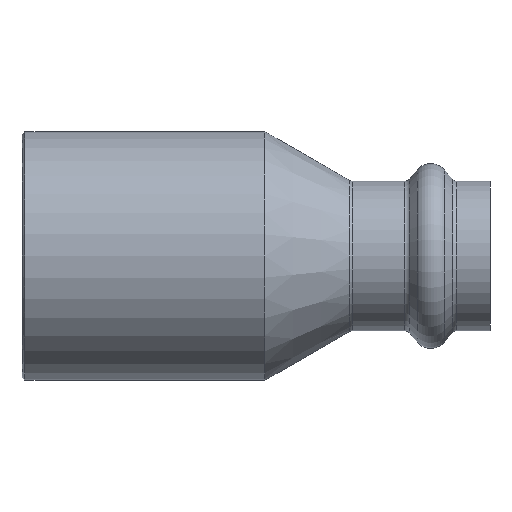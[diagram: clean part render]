
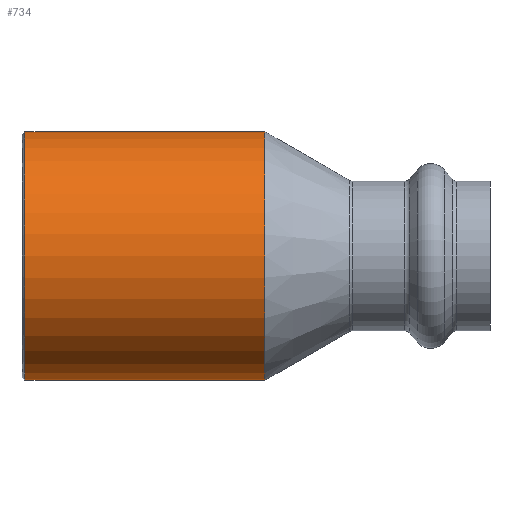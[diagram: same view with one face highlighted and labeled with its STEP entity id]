
A CAD part, front view. The second image highlights one B-rep face of the part: STEP entity #734.
In plain terms, the highlighted cylindrical face has radius 21 mm (diameter 42 mm), a partial arc.
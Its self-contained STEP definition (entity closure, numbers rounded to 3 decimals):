
#62 = VERTEX_POINT ( 'NONE', #63 ) ;
#63 = CARTESIAN_POINT ( 'NONE',  ( 41., 0., 21. ) ) ;
#72 = EDGE_CURVE ( 'NONE', #178, #62, #975, .T. ) ;
#135 = CYLINDRICAL_SURFACE ( 'NONE', #721, 21. ) ;
#139 = VERTEX_POINT ( 'NONE', #545 ) ;
#178 = VERTEX_POINT ( 'NONE', #452 ) ;
#246 = AXIS2_PLACEMENT_3D ( 'NONE', #298, #1283, #262 ) ;
#262 = DIRECTION ( 'NONE',  ( 0., 0., 1. ) ) ;
#291 = CARTESIAN_POINT ( 'NONE',  ( -4.079, 0., 21. ) ) ;
#298 = CARTESIAN_POINT ( 'NONE',  ( 41., 0., 0. ) ) ;
#318 = CARTESIAN_POINT ( 'NONE',  ( 0.5, 0., 21. ) ) ;
#331 = EDGE_CURVE ( 'NONE', #62, #613, #1156, .T. ) ;
#452 = CARTESIAN_POINT ( 'NONE',  ( 41., 0., -21. ) ) ;
#493 = EDGE_CURVE ( 'NONE', #178, #139, #583, .T. ) ;
#497 = ORIENTED_EDGE ( 'NONE', *, *, #331, .T. ) ;
#518 = ORIENTED_EDGE ( 'NONE', *, *, #493, .F. ) ;
#545 = CARTESIAN_POINT ( 'NONE',  ( 0.5, 0., -21. ) ) ;
#571 = DIRECTION ( 'NONE',  ( -1., 0., 0. ) ) ;
#583 = LINE ( 'NONE', #1098, #1237 ) ;
#601 = FACE_OUTER_BOUND ( 'NONE', #1287, .T. ) ;
#613 = VERTEX_POINT ( 'NONE', #318 ) ;
#623 = CIRCLE ( 'NONE', #1191, 21. ) ;
#720 = CARTESIAN_POINT ( 'NONE',  ( 0.5, 0., 0. ) ) ;
#721 = AXIS2_PLACEMENT_3D ( 'NONE', #729, #800, #861 ) ;
#729 = CARTESIAN_POINT ( 'NONE',  ( -4.079, 0., 0. ) ) ;
#734 = ADVANCED_FACE ( 'NONE', ( #601 ), #135, .T. ) ;
#742 = DIRECTION ( 'NONE',  ( -1., 0., 0. ) ) ;
#751 = DIRECTION ( 'NONE',  ( 0., 0., 1. ) ) ;
#800 = DIRECTION ( 'NONE',  ( -1., 0., 0. ) ) ;
#861 = DIRECTION ( 'NONE',  ( 0., 0., 1. ) ) ;
#975 = CIRCLE ( 'NONE', #246, 21. ) ;
#1098 = CARTESIAN_POINT ( 'NONE',  ( -4.079, 0., -21. ) ) ;
#1118 = DIRECTION ( 'NONE',  ( -1., 0., 0. ) ) ;
#1120 = VECTOR ( 'NONE', #571, 1000. ) ;
#1156 = LINE ( 'NONE', #291, #1120 ) ;
#1191 = AXIS2_PLACEMENT_3D ( 'NONE', #720, #742, #751 ) ;
#1204 = EDGE_CURVE ( 'NONE', #139, #613, #623, .T. ) ;
#1237 = VECTOR ( 'NONE', #1118, 1000. ) ;
#1242 = ORIENTED_EDGE ( 'NONE', *, *, #1204, .F. ) ;
#1253 = ORIENTED_EDGE ( 'NONE', *, *, #72, .T. ) ;
#1283 = DIRECTION ( 'NONE',  ( -1., 0., 0. ) ) ;
#1287 = EDGE_LOOP ( 'NONE', ( #518, #1253, #497, #1242 ) ) ;
